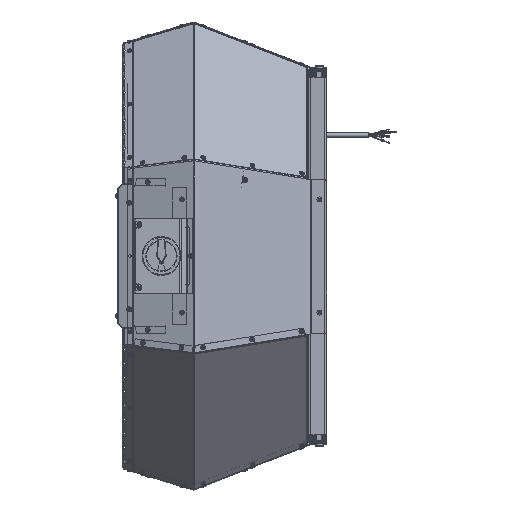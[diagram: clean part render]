
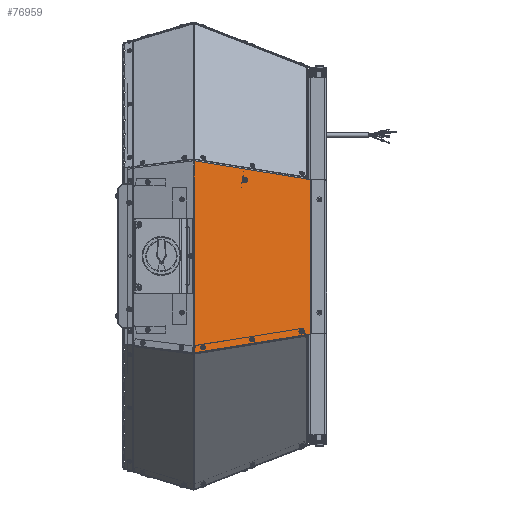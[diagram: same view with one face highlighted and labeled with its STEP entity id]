
A CAD part, left-side view. The second image highlights one B-rep face of the part: STEP entity #76959.
In plain terms, the highlighted planar face has unit normal (-0.932, -0.362, 0).
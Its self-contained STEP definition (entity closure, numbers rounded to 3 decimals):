
#4743 = VERTEX_POINT ( 'NONE', #41324 ) ;
#6468 = VERTEX_POINT ( 'NONE', #9372 ) ;
#9372 = CARTESIAN_POINT ( 'NONE',  ( -367.784, 175.634, -145.533 ) ) ;
#10873 = FACE_BOUND ( 'NONE', #51872, .T. ) ;
#10876 = FACE_BOUND ( 'NONE', #51860, .T. ) ;
#10877 = FACE_BOUND ( 'NONE', #73547, .T. ) ;
#10879 = FACE_OUTER_BOUND ( 'NONE', #73188, .T. ) ;
#10882 = FACE_BOUND ( 'NONE', #73261, .T. ) ;
#20467 = VECTOR ( 'NONE', #64340, 1000. ) ;
#20469 = LINE ( 'NONE', #64338, #20474 ) ;
#20471 = CIRCLE ( 'NONE', #23963, 2.1 ) ;
#20472 = LINE ( 'NONE', #64339, #20467 ) ;
#20473 = LINE ( 'NONE', #64342, #20476 ) ;
#20474 = VECTOR ( 'NONE', #64341, 1000. ) ;
#20475 = LINE ( 'NONE', #64344, #20478 ) ;
#20476 = VECTOR ( 'NONE', #64343, 1000. ) ;
#20477 = CIRCLE ( 'NONE', #23962, 2.1 ) ;
#20478 = VECTOR ( 'NONE', #64345, 1000. ) ;
#20479 = CIRCLE ( 'NONE', #23965, 2.1 ) ;
#20480 = CIRCLE ( 'NONE', #23964, 2.1 ) ;
#20481 = CIRCLE ( 'NONE', #23967, 2.1 ) ;
#20482 = CIRCLE ( 'NONE', #23966, 2.1 ) ;
#20483 = CIRCLE ( 'NONE', #23969, 2.1 ) ;
#20484 = CIRCLE ( 'NONE', #23968, 2.1 ) ;
#20485 = VECTOR ( 'NONE', #64397, 1000. ) ;
#20487 = LINE ( 'NONE', #64393, #20485 ) ;
#20611 = LINE ( 'NONE', #71128, #20618 ) ;
#20618 = VECTOR ( 'NONE', #71142, 1000. ) ;
#23962 = AXIS2_PLACEMENT_3D ( 'NONE', #64346, #64347, #64348 ) ;
#23963 = AXIS2_PLACEMENT_3D ( 'NONE', #64349, #64350, #64351 ) ;
#23964 = AXIS2_PLACEMENT_3D ( 'NONE', #64352, #64353, #64354 ) ;
#23965 = AXIS2_PLACEMENT_3D ( 'NONE', #64355, #64356, #64357 ) ;
#23966 = AXIS2_PLACEMENT_3D ( 'NONE', #64358, #64359, #64360 ) ;
#23967 = AXIS2_PLACEMENT_3D ( 'NONE', #64361, #64362, #64364 ) ;
#23968 = AXIS2_PLACEMENT_3D ( 'NONE', #64368, #64370, #64371 ) ;
#23969 = AXIS2_PLACEMENT_3D ( 'NONE', #64376, #64377, #64379 ) ;
#39982 = CARTESIAN_POINT ( 'NONE',  ( -300.387, 2.323, 121.257 ) ) ;
#40060 = CARTESIAN_POINT ( 'NONE',  ( -372.298, 187.241, 151.354 ) ) ;
#40078 = CARTESIAN_POINT ( 'NONE',  ( -303.037, 9.137, 121.257 ) ) ;
#40088 = CARTESIAN_POINT ( 'NONE',  ( -340.004, 104.199, 121.298 ) ) ;
#40094 = CARTESIAN_POINT ( 'NONE',  ( -300.387, 2.323, -124.164 ) ) ;
#40113 = CARTESIAN_POINT ( 'NONE',  ( -372.272, 187.176, 151.54 ) ) ;
#40121 = CARTESIAN_POINT ( 'NONE',  ( -305.33, 15.034, -120.3 ) ) ;
#40128 = CARTESIAN_POINT ( 'NONE',  ( -341.527, 108.114, 121.298 ) ) ;
#40129 = CARTESIAN_POINT ( 'NONE',  ( -366.262, 171.72, -145.533 ) ) ;
#40130 = CARTESIAN_POINT ( 'NONE',  ( -337.318, 97.291, -132.916 ) ) ;
#40132 = CARTESIAN_POINT ( 'NONE',  ( -335.796, 93.377, -132.916 ) ) ;
#40133 = CARTESIAN_POINT ( 'NONE',  ( -306.852, 18.948, -120.3 ) ) ;
#40135 = CARTESIAN_POINT ( 'NONE',  ( -303.037, 9.137, 122.861 ) ) ;
#41324 = CARTESIAN_POINT ( 'NONE',  ( -372.298, 187.241, -153.95 ) ) ;
#44148 = LINE ( 'NONE', #60191, #44152 ) ;
#44152 = VECTOR ( 'NONE', #60190, 1000. ) ;
#51860 = EDGE_LOOP ( 'NONE', ( #126512, #126511 ) ) ;
#51872 = EDGE_LOOP ( 'NONE', ( #126509, #126508 ) ) ;
#52328 = EDGE_CURVE ( 'NONE', #84918, #85134, #44148, .T. ) ;
#53312 = EDGE_CURVE ( 'NONE', #85213, #85104, #20472, .T. ) ;
#53316 = EDGE_CURVE ( 'NONE', #85104, #84918, #20469, .T. ) ;
#53319 = EDGE_CURVE ( 'NONE', #85069, #85170, #20473, .T. ) ;
#53322 = EDGE_CURVE ( 'NONE', #85213, #85170, #20475, .T. ) ;
#53325 = EDGE_CURVE ( 'NONE', #85186, #85209, #20477, .T. ) ;
#53327 = EDGE_CURVE ( 'NONE', #85209, #85186, #20471, .T. ) ;
#53331 = EDGE_CURVE ( 'NONE', #85207, #85203, #20480, .T. ) ;
#53334 = EDGE_CURVE ( 'NONE', #85203, #85207, #20479, .T. ) ;
#53337 = EDGE_CURVE ( 'NONE', #85202, #6468, #20482, .T. ) ;
#53339 = EDGE_CURVE ( 'NONE', #6468, #85202, #20481, .T. ) ;
#53343 = EDGE_CURVE ( 'NONE', #85200, #85122, #20484, .T. ) ;
#53345 = EDGE_CURVE ( 'NONE', #85122, #85200, #20483, .T. ) ;
#53354 = EDGE_CURVE ( 'NONE', #85069, #4743, #20487, .T. ) ;
#53640 = EDGE_CURVE ( 'NONE', #85134, #4743, #20611, .T. ) ;
#60190 = DIRECTION ( 'NONE',  ( 0., 0., -1. ) ) ;
#60191 = CARTESIAN_POINT ( 'NONE',  ( -300.387, 2.323, 153.95 ) ) ;
#64338 = CARTESIAN_POINT ( 'NONE',  ( -300.387, 2.323, 121.257 ) ) ;
#64339 = CARTESIAN_POINT ( 'NONE',  ( -303.037, 9.137, 121.257 ) ) ;
#64340 = DIRECTION ( 'NONE',  ( 0., 0., -1. ) ) ;
#64341 = DIRECTION ( 'NONE',  ( 0.362, -0.932, 0. ) ) ;
#64342 = CARTESIAN_POINT ( 'NONE',  ( -372.308, 187.269, 151.275 ) ) ;
#64343 = DIRECTION ( 'NONE',  ( 0.127, -0.327, 0.936 ) ) ;
#64344 = CARTESIAN_POINT ( 'NONE',  ( -300.515, 2.651, 121.816 ) ) ;
#64345 = DIRECTION ( 'NONE',  ( -0.358, 0.922, 0.148 ) ) ;
#64346 = CARTESIAN_POINT ( 'NONE',  ( -306.091, 16.991, -120.3 ) ) ;
#64347 = DIRECTION ( 'NONE',  ( 0.932, 0.362, 0. ) ) ;
#64348 = DIRECTION ( 'NONE',  ( -0.362, 0.932, 0. ) ) ;
#64349 = CARTESIAN_POINT ( 'NONE',  ( -306.091, 16.991, -120.3 ) ) ;
#64350 = DIRECTION ( 'NONE',  ( 0.932, 0.362, 0. ) ) ;
#64351 = DIRECTION ( 'NONE',  ( -0.362, 0.932, 0. ) ) ;
#64352 = CARTESIAN_POINT ( 'NONE',  ( -336.557, 95.334, -132.916 ) ) ;
#64353 = DIRECTION ( 'NONE',  ( 0.932, 0.362, 0. ) ) ;
#64354 = DIRECTION ( 'NONE',  ( -0.362, 0.932, 0. ) ) ;
#64355 = CARTESIAN_POINT ( 'NONE',  ( -336.557, 95.334, -132.916 ) ) ;
#64356 = DIRECTION ( 'NONE',  ( 0.932, 0.362, 0. ) ) ;
#64357 = DIRECTION ( 'NONE',  ( -0.362, 0.932, 0. ) ) ;
#64358 = CARTESIAN_POINT ( 'NONE',  ( -367.023, 173.677, -145.533 ) ) ;
#64359 = DIRECTION ( 'NONE',  ( 0.932, 0.362, 0. ) ) ;
#64360 = DIRECTION ( 'NONE',  ( -0.362, 0.932, 0. ) ) ;
#64361 = CARTESIAN_POINT ( 'NONE',  ( -367.023, 173.677, -145.533 ) ) ;
#64362 = DIRECTION ( 'NONE',  ( 0.932, 0.362, 0. ) ) ;
#64364 = DIRECTION ( 'NONE',  ( -0.362, 0.932, 0. ) ) ;
#64368 = CARTESIAN_POINT ( 'NONE',  ( -340.766, 106.157, 121.298 ) ) ;
#64370 = DIRECTION ( 'NONE',  ( -0.932, -0.362, 0. ) ) ;
#64371 = DIRECTION ( 'NONE',  ( 0.362, -0.932, 0. ) ) ;
#64376 = CARTESIAN_POINT ( 'NONE',  ( -340.766, 106.157, 121.298 ) ) ;
#64377 = DIRECTION ( 'NONE',  ( -0.932, -0.362, 0. ) ) ;
#64379 = DIRECTION ( 'NONE',  ( 0.362, -0.932, 0. ) ) ;
#64393 = CARTESIAN_POINT ( 'NONE',  ( -372.298, 187.241, 153.95 ) ) ;
#64397 = DIRECTION ( 'NONE',  ( 0., 0., -1. ) ) ;
#71128 = CARTESIAN_POINT ( 'NONE',  ( -300.387, 2.323, -124.164 ) ) ;
#71142 = DIRECTION ( 'NONE',  ( -0.358, 0.922, -0.148 ) ) ;
#73188 = EDGE_LOOP ( 'NONE', ( #126510, #126514, #126513, #126518, #126515, #126516, #126519 ) ) ;
#73261 = EDGE_LOOP ( 'NONE', ( #126505, #126504 ) ) ;
#73547 = EDGE_LOOP ( 'NONE', ( #126507, #126506 ) ) ;
#76959 = ADVANCED_FACE ( 'NONE', ( #10877, #10882, #10876, #10873, #10879 ), #91593, .F. ) ;
#84918 = VERTEX_POINT ( 'NONE', #39982 ) ;
#85069 = VERTEX_POINT ( 'NONE', #40060 ) ;
#85104 = VERTEX_POINT ( 'NONE', #40078 ) ;
#85122 = VERTEX_POINT ( 'NONE', #40088 ) ;
#85134 = VERTEX_POINT ( 'NONE', #40094 ) ;
#85170 = VERTEX_POINT ( 'NONE', #40113 ) ;
#85186 = VERTEX_POINT ( 'NONE', #40121 ) ;
#85200 = VERTEX_POINT ( 'NONE', #40128 ) ;
#85202 = VERTEX_POINT ( 'NONE', #40129 ) ;
#85203 = VERTEX_POINT ( 'NONE', #40130 ) ;
#85207 = VERTEX_POINT ( 'NONE', #40132 ) ;
#85209 = VERTEX_POINT ( 'NONE', #40133 ) ;
#85213 = VERTEX_POINT ( 'NONE', #40135 ) ;
#90299 = AXIS2_PLACEMENT_3D ( 'NONE', #91595, #91589, #91597 ) ;
#91589 = DIRECTION ( 'NONE',  ( 0.932, 0.362, 0. ) ) ;
#91593 = PLANE ( 'NONE',  #90299 ) ;
#91595 = CARTESIAN_POINT ( 'NONE',  ( -372.595, 188.007, 153.95 ) ) ;
#91597 = DIRECTION ( 'NONE',  ( -0.362, 0.932, 0. ) ) ;
#126504 = ORIENTED_EDGE ( 'NONE', *, *, #53337, .T. ) ;
#126505 = ORIENTED_EDGE ( 'NONE', *, *, #53339, .T. ) ;
#126506 = ORIENTED_EDGE ( 'NONE', *, *, #53343, .F. ) ;
#126507 = ORIENTED_EDGE ( 'NONE', *, *, #53345, .F. ) ;
#126508 = ORIENTED_EDGE ( 'NONE', *, *, #53325, .T. ) ;
#126509 = ORIENTED_EDGE ( 'NONE', *, *, #53327, .T. ) ;
#126510 = ORIENTED_EDGE ( 'NONE', *, *, #53322, .T. ) ;
#126511 = ORIENTED_EDGE ( 'NONE', *, *, #53331, .T. ) ;
#126512 = ORIENTED_EDGE ( 'NONE', *, *, #53334, .T. ) ;
#126513 = ORIENTED_EDGE ( 'NONE', *, *, #53354, .T. ) ;
#126514 = ORIENTED_EDGE ( 'NONE', *, *, #53319, .F. ) ;
#126515 = ORIENTED_EDGE ( 'NONE', *, *, #52328, .F. ) ;
#126516 = ORIENTED_EDGE ( 'NONE', *, *, #53316, .F. ) ;
#126518 = ORIENTED_EDGE ( 'NONE', *, *, #53640, .F. ) ;
#126519 = ORIENTED_EDGE ( 'NONE', *, *, #53312, .F. ) ;
